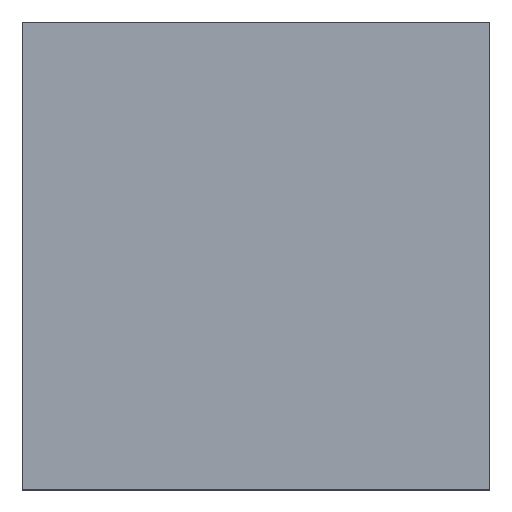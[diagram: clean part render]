
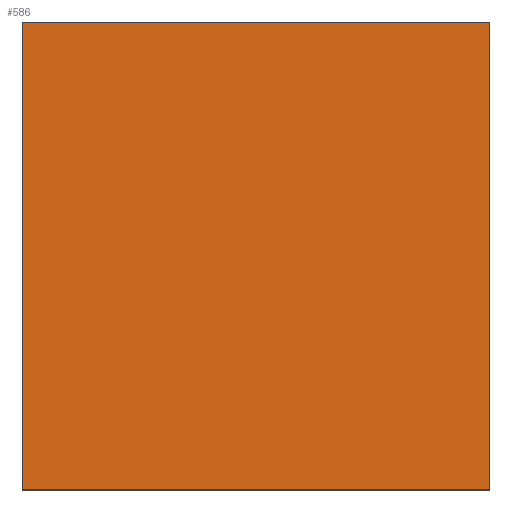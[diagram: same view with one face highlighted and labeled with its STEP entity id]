
A CAD part, top view. The second image highlights one B-rep face of the part: STEP entity #586.
In plain terms, the highlighted planar face has unit normal (0, 0, 1).
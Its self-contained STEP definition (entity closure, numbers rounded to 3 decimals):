
#586=ADVANCED_FACE('',(#841),#754,.F.);
#754=PLANE('',#1974);
#841=FACE_OUTER_BOUND('',#927,.T.);
#927=EDGE_LOOP('',(#1269,#1270,#1271,#1272));
#1269=ORIENTED_EDGE('',*,*,#1773,.F.);
#1270=ORIENTED_EDGE('',*,*,#1782,.F.);
#1271=ORIENTED_EDGE('',*,*,#1779,.F.);
#1272=ORIENTED_EDGE('',*,*,#1776,.F.);
#1603=VERTEX_POINT('',#2979);
#1604=VERTEX_POINT('',#2981);
#1606=VERTEX_POINT('',#2987);
#1608=VERTEX_POINT('',#2993);
#1773=EDGE_CURVE('',#1603,#1604,#1947,.T.);
#1776=EDGE_CURVE('',#1604,#1606,#1950,.T.);
#1779=EDGE_CURVE('',#1606,#1608,#1953,.T.);
#1782=EDGE_CURVE('',#1608,#1603,#1956,.T.);
#1947=LINE('',#2980,#1959);
#1950=LINE('',#2986,#1962);
#1953=LINE('',#2992,#1965);
#1956=LINE('',#2997,#1968);
#1959=VECTOR('',#2304,1.);
#1962=VECTOR('',#2309,1.);
#1965=VECTOR('',#2314,1.);
#1968=VECTOR('',#2319,1.);
#1974=AXIS2_PLACEMENT_3D('',#2999,#2322,#2323);
#2304=DIRECTION('',(1.,0.,0.));
#2309=DIRECTION('',(0.,-1.,0.));
#2314=DIRECTION('',(-1.,0.,0.));
#2319=DIRECTION('',(0.,1.,0.));
#2322=DIRECTION('',(0.,0.,-1.));
#2323=DIRECTION('',(1.,0.,0.));
#2979=CARTESIAN_POINT('',(-2.5,47.9,8.5));
#2980=CARTESIAN_POINT('',(-2.5,47.9,8.5));
#2981=CARTESIAN_POINT('',(47.5,47.9,8.5));
#2986=CARTESIAN_POINT('',(47.5,47.9,8.5));
#2987=CARTESIAN_POINT('',(47.5,-2.1,8.5));
#2992=CARTESIAN_POINT('',(47.5,-2.1,8.5));
#2993=CARTESIAN_POINT('',(-2.5,-2.1,8.5));
#2997=CARTESIAN_POINT('',(-2.5,-2.1,8.5));
#2999=CARTESIAN_POINT('',(0.,0.,8.5));
